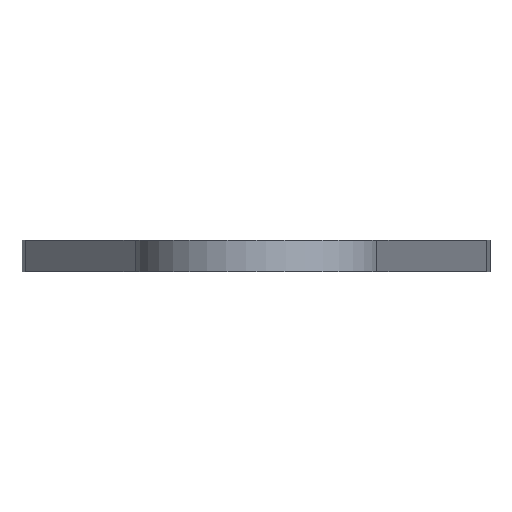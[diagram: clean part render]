
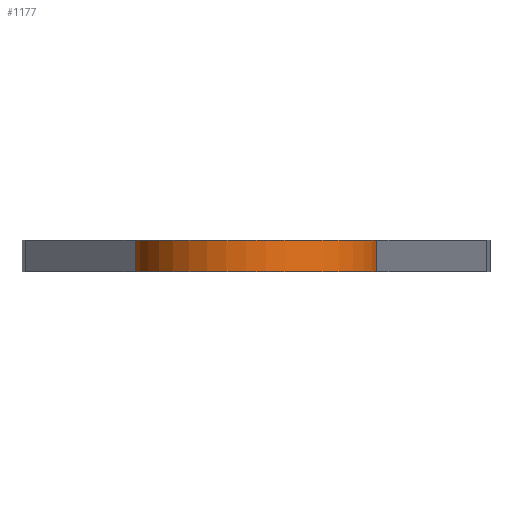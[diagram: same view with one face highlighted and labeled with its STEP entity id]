
A CAD part, left-side view. The second image highlights one B-rep face of the part: STEP entity #1177.
In plain terms, the highlighted cylindrical face has radius 15.4 mm (diameter 30.8 mm), a partial arc.
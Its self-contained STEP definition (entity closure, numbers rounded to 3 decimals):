
#101 = PLANE('',#102);
#102 = AXIS2_PLACEMENT_3D('',#103,#104,#105);
#103 = CARTESIAN_POINT('',(-4.842,-28.998,-41.));
#104 = DIRECTION('',(-0.165,-0.986,0.));
#105 = DIRECTION('',(-0.986,0.165,0.));
#206 = PLANE('',#207);
#207 = AXIS2_PLACEMENT_3D('',#208,#209,#210);
#208 = CARTESIAN_POINT('',(-87.536,15.19,-41.));
#209 = DIRECTION('',(-0.165,0.986,0.));
#210 = DIRECTION('',(0.986,0.165,0.));
#392 = VERTEX_POINT('',#393);
#393 = CARTESIAN_POINT('',(-87.536,-15.19,-37.));
#419 = EDGE_CURVE('',#420,#392,#422,.T.);
#420 = VERTEX_POINT('',#421);
#421 = CARTESIAN_POINT('',(-87.536,-15.19,-41.));
#422 = SURFACE_CURVE('',#423,(#427,#434),.PCURVE_S1.);
#423 = LINE('',#424,#425);
#424 = CARTESIAN_POINT('',(-87.536,-15.19,-41.));
#425 = VECTOR('',#426,1.);
#426 = DIRECTION('',(0.,0.,1.));
#427 = PCURVE('',#101,#428);
#428 = DEFINITIONAL_REPRESENTATION('',(#429),#433);
#429 = LINE('',#430,#431);
#430 = CARTESIAN_POINT('',(83.839,0.));
#431 = VECTOR('',#432,1.);
#432 = DIRECTION('',(0.,-1.));
#433 = ( GEOMETRIC_REPRESENTATION_CONTEXT(2) 
PARAMETRIC_REPRESENTATION_CONTEXT() REPRESENTATION_CONTEXT('2D SPACE',''
  ) );
#434 = PCURVE('',#435,#440);
#435 = CYLINDRICAL_SURFACE('',#436,15.4);
#436 = AXIS2_PLACEMENT_3D('',#437,#438,#439);
#437 = CARTESIAN_POINT('',(-85.,0.,-41.));
#438 = DIRECTION('',(0.,0.,1.));
#439 = DIRECTION('',(1.,0.,-0.));
#440 = DEFINITIONAL_REPRESENTATION('',(#441),#445);
#441 = LINE('',#442,#443);
#442 = CARTESIAN_POINT('',(4.547,0.));
#443 = VECTOR('',#444,1.);
#444 = DIRECTION('',(0.,1.));
#445 = ( GEOMETRIC_REPRESENTATION_CONTEXT(2) 
PARAMETRIC_REPRESENTATION_CONTEXT() REPRESENTATION_CONTEXT('2D SPACE',''
  ) );
#625 = EDGE_CURVE('',#626,#628,#630,.T.);
#626 = VERTEX_POINT('',#627);
#627 = CARTESIAN_POINT('',(-87.536,15.19,-41.));
#628 = VERTEX_POINT('',#629);
#629 = CARTESIAN_POINT('',(-87.536,15.19,-37.));
#630 = SURFACE_CURVE('',#631,(#635,#642),.PCURVE_S1.);
#631 = LINE('',#632,#633);
#632 = CARTESIAN_POINT('',(-87.536,15.19,-41.));
#633 = VECTOR('',#634,1.);
#634 = DIRECTION('',(0.,0.,1.));
#635 = PCURVE('',#206,#636);
#636 = DEFINITIONAL_REPRESENTATION('',(#637),#641);
#637 = LINE('',#638,#639);
#638 = CARTESIAN_POINT('',(0.,0.));
#639 = VECTOR('',#640,1.);
#640 = DIRECTION('',(0.,-1.));
#641 = ( GEOMETRIC_REPRESENTATION_CONTEXT(2) 
PARAMETRIC_REPRESENTATION_CONTEXT() REPRESENTATION_CONTEXT('2D SPACE',''
  ) );
#642 = PCURVE('',#435,#643);
#643 = DEFINITIONAL_REPRESENTATION('',(#644),#648);
#644 = LINE('',#645,#646);
#645 = CARTESIAN_POINT('',(1.736,0.));
#646 = VECTOR('',#647,1.);
#647 = DIRECTION('',(0.,1.));
#648 = ( GEOMETRIC_REPRESENTATION_CONTEXT(2) 
PARAMETRIC_REPRESENTATION_CONTEXT() REPRESENTATION_CONTEXT('2D SPACE',''
  ) );
#1177 = ADVANCED_FACE('',(#1178),#435,.T.);
#1178 = FACE_BOUND('',#1179,.T.);
#1179 = EDGE_LOOP('',(#1180,#1207,#1208,#1235));
#1180 = ORIENTED_EDGE('',*,*,#1181,.F.);
#1181 = EDGE_CURVE('',#628,#392,#1182,.T.);
#1182 = SURFACE_CURVE('',#1183,(#1188,#1195),.PCURVE_S1.);
#1183 = CIRCLE('',#1184,15.4);
#1184 = AXIS2_PLACEMENT_3D('',#1185,#1186,#1187);
#1185 = CARTESIAN_POINT('',(-85.,0.,-37.));
#1186 = DIRECTION('',(0.,0.,1.));
#1187 = DIRECTION('',(1.,0.,-0.));
#1188 = PCURVE('',#435,#1189);
#1189 = DEFINITIONAL_REPRESENTATION('',(#1190),#1194);
#1190 = LINE('',#1191,#1192);
#1191 = CARTESIAN_POINT('',(0.,4.));
#1192 = VECTOR('',#1193,1.);
#1193 = DIRECTION('',(1.,0.));
#1194 = ( GEOMETRIC_REPRESENTATION_CONTEXT(2) 
PARAMETRIC_REPRESENTATION_CONTEXT() REPRESENTATION_CONTEXT('2D SPACE',''
  ) );
#1195 = PCURVE('',#1196,#1201);
#1196 = PLANE('',#1197);
#1197 = AXIS2_PLACEMENT_3D('',#1198,#1199,#1200);
#1198 = CARTESIAN_POINT('',(-85.,0.,-37.));
#1199 = DIRECTION('',(0.,0.,1.));
#1200 = DIRECTION('',(1.,0.,-0.));
#1201 = DEFINITIONAL_REPRESENTATION('',(#1202),#1206);
#1202 = CIRCLE('',#1203,15.4);
#1203 = AXIS2_PLACEMENT_2D('',#1204,#1205);
#1204 = CARTESIAN_POINT('',(0.,0.));
#1205 = DIRECTION('',(1.,0.));
#1206 = ( GEOMETRIC_REPRESENTATION_CONTEXT(2) 
PARAMETRIC_REPRESENTATION_CONTEXT() REPRESENTATION_CONTEXT('2D SPACE',''
  ) );
#1207 = ORIENTED_EDGE('',*,*,#625,.F.);
#1208 = ORIENTED_EDGE('',*,*,#1209,.T.);
#1209 = EDGE_CURVE('',#626,#420,#1210,.T.);
#1210 = SURFACE_CURVE('',#1211,(#1216,#1223),.PCURVE_S1.);
#1211 = CIRCLE('',#1212,15.4);
#1212 = AXIS2_PLACEMENT_3D('',#1213,#1214,#1215);
#1213 = CARTESIAN_POINT('',(-85.,0.,-41.));
#1214 = DIRECTION('',(0.,0.,1.));
#1215 = DIRECTION('',(1.,0.,-0.));
#1216 = PCURVE('',#435,#1217);
#1217 = DEFINITIONAL_REPRESENTATION('',(#1218),#1222);
#1218 = LINE('',#1219,#1220);
#1219 = CARTESIAN_POINT('',(0.,0.));
#1220 = VECTOR('',#1221,1.);
#1221 = DIRECTION('',(1.,0.));
#1222 = ( GEOMETRIC_REPRESENTATION_CONTEXT(2) 
PARAMETRIC_REPRESENTATION_CONTEXT() REPRESENTATION_CONTEXT('2D SPACE',''
  ) );
#1223 = PCURVE('',#1224,#1229);
#1224 = PLANE('',#1225);
#1225 = AXIS2_PLACEMENT_3D('',#1226,#1227,#1228);
#1226 = CARTESIAN_POINT('',(-85.,0.,-41.));
#1227 = DIRECTION('',(0.,0.,1.));
#1228 = DIRECTION('',(1.,0.,-0.));
#1229 = DEFINITIONAL_REPRESENTATION('',(#1230),#1234);
#1230 = CIRCLE('',#1231,15.4);
#1231 = AXIS2_PLACEMENT_2D('',#1232,#1233);
#1232 = CARTESIAN_POINT('',(0.,0.));
#1233 = DIRECTION('',(1.,0.));
#1234 = ( GEOMETRIC_REPRESENTATION_CONTEXT(2) 
PARAMETRIC_REPRESENTATION_CONTEXT() REPRESENTATION_CONTEXT('2D SPACE',''
  ) );
#1235 = ORIENTED_EDGE('',*,*,#419,.T.);
